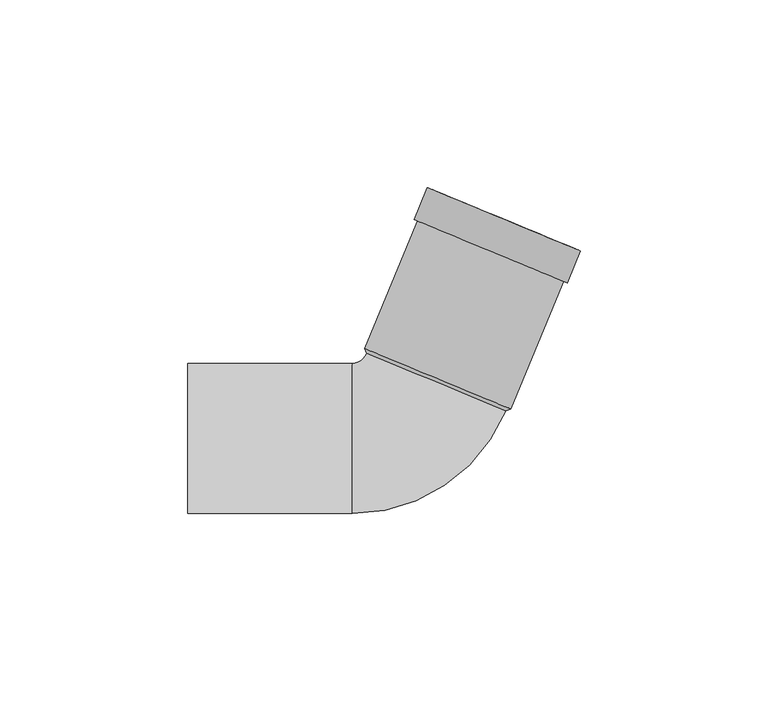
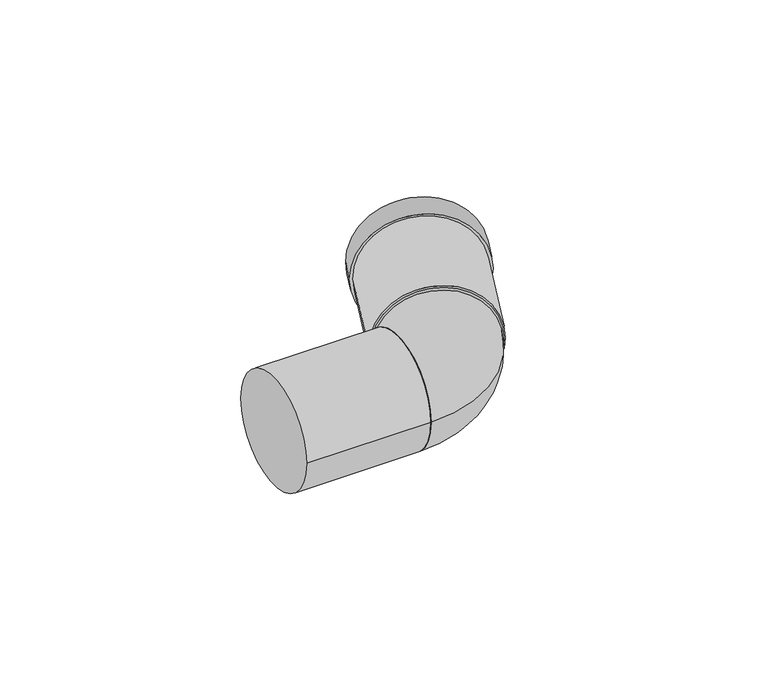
"""IFC4 building model written with IfcOpenShell, lengths in millimetres: pipe fitting geometry, Superdrain HT bend : Superdrain HT Bend."""

from ifc_helpers import new_model, si_unit, point, frame, origin, origin_2d, place, context, project, spatial, polyline, circle_curve, ellipse_curve, trimmed, segment, composite_curve, outline, extrude, source, transform, mapped, element, save
from ifc_brep_helpers import plane_surface, revolved_surface, advanced_brep


def pipe_fitting_aafaf56d(model_context):
    return source(origin(), model_context, "Body", "SolidModel", [
        advanced_brep(
        [(24.6770623, 7.3131798, 0.0), (-12.278119, 22.6205171, 0.0), (-16.2, -20.0, 0.0), (-16.2, 20.0, 0.0)],
        [
            (0, 1, circle_curve(frame((6.1994716, 14.9668484, 0.0), z_axis=(0.38268343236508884, 0.9238795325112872, 0.0), x_axis=(-0.9238795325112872, 0.38268343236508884, 0.0)), 20.0)),
            (1, 0, circle_curve(frame((6.1994716, 14.9668484, 0.0), z_axis=(0.38268343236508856, 0.9238795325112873, 0.0), x_axis=(-0.9238795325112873, 0.38268343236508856, 0.0)), 20.0)),
            (2, 3, circle_curve(frame((-16.2, 0.0, 0.0), z_axis=(-1.0, 0.0, 0.0), x_axis=(0.0, 1.0, 0.0)), 20.0)),
            (3, 2, circle_curve(frame((-16.2, 0.0, 0.0), z_axis=(-1.0, 0.0, 0.0), x_axis=(0.0, 1.0, 0.0)), 20.0)),
            (3, 1, circle_curve(frame((-16.2, 24.2450134, 0.0), z_axis=(0.0, 0.0, 1.0), x_axis=(1.0, 0.0, 0.0)), 4.2450134)),
            (0, 2, circle_curve(frame((-16.2, 24.2450134, 0.0), z_axis=(0.0, 0.0, -1.0), x_axis=(1.0, 0.0, 0.0)), 44.2450134)),
        ],
        [
            plane_surface(frame((6.1994716, 14.9668484, 0.0), z_axis=(0.3826834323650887, 0.9238795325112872, 0.0), x_axis=(0.0, 0.0, -1.0))),
            plane_surface(frame((-16.2, 0.0, 0.0), z_axis=(-1.0, 0.0, 0.0), x_axis=(0.0, 0.0, -1.0))),
            revolved_surface(trimmed(ellipse_curve(frame((8.0450134, 24.2450134, 0.0), z_axis=(0.0, -1.0, 0.0), x_axis=(-1.0, 0.0, 0.0)), 20.0, 20.0), [point((-11.9549866, 24.2450134, 0.0))], [point((28.0450134, 24.2450134, 0.0))], True, "CARTESIAN"), (-16.2, 24.2450134, 0.0), (0.0, 0.0, 1.0)),
            revolved_surface(trimmed(ellipse_curve(frame((8.0450134, 24.2450134, 0.0), z_axis=(0.0, -1.0, 0.0), x_axis=(-1.0, 0.0, 0.0)), 20.0, 20.0), [point((28.0450134, 24.2450134, 0.0))], [point((-11.9549866, 24.2450134, 0.0))], True, "CARTESIAN"), (-16.2, 24.2450134, 0.0), (0.0, 0.0, 1.0)),
        ],
        [
            (0, [[1, 2]]),
            (1, [[3, 4]]),
            (2, [[-4, 5, -1, 6]]),
            (3, [[-3, -6, -2, -5]]),
        ],
    ),
        extrude(outline(composite_curve([segment(trimmed(circle_curve(origin_2d(), 21.0), [point((0.0, 21.0))], [point((0.0, -20.9999999))], False, "CARTESIAN"), True, "CONTINUOUS"), segment(trimmed(circle_curve(origin_2d(), 21.0), [point((0.0, -20.9999999))], [point((0.0, 21.0))], False, "CARTESIAN"), True, "CONTINUOUS")], self_intersect=False), holes=[composite_curve([segment(trimmed(circle_curve(origin_2d(), 20.0), [point((0.0, 20.0000001))], [point((0.0, -19.9999999))], True, "CARTESIAN"), True, "CONTINUOUS"), segment(trimmed(circle_curve(origin_2d(), 20.0), [point((0.0, -19.9999999))], [point((0.0, 20.0000001))], True, "CARTESIAN"), True, "CONTINUOUS")], self_intersect=False)]), frame((6.582155, 15.890728, 0.0), z_axis=(0.3826834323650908, 0.9238795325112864, 0.0), x_axis=(0.0, 0.0, 1.0)), (0.0, 0.0, 1.0), 46.0),
        extrude(outline(composite_curve([segment(trimmed(circle_curve(origin_2d(), 22.05), [point((0.0, -22.0499999))], [point((0.0, 22.05))], False, "CARTESIAN"), True, "CONTINUOUS"), segment(trimmed(circle_curve(origin_2d(), 22.05), [point((0.0, 22.05))], [point((0.0, -22.0499999))], False, "CARTESIAN"), True, "CONTINUOUS")], self_intersect=False), holes=[composite_curve([segment(trimmed(circle_curve(origin_2d(), 20.0), [point((0.0, -19.9999999))], [point((0.0, 20.0000001))], True, "CARTESIAN"), True, "CONTINUOUS"), segment(trimmed(circle_curve(origin_2d(), 20.0), [point((0.0, 20.0000001))], [point((0.0, -19.9999999))], True, "CARTESIAN"), True, "CONTINUOUS")], self_intersect=False)]), frame((20.6649053, 49.8894948, 0.0), z_axis=(0.3826834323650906, 0.9238795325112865, 0.0), x_axis=(0.0, 0.0, 1.0)), (0.0, 0.0, 1.0), 9.2),
        advanced_brep(
        [(25.9836252, 7.8543759, 0.0), (-12.8193151, 23.92708, 0.0), (24.6770623, 7.3131798, 0.0), (-12.278119, 22.6205171, 0.0)],
        [
            (0, 1, circle_curve(frame((6.582155, 15.890728, 0.0), z_axis=(0.3826834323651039, 0.923879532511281, 0.0), x_axis=(0.9238795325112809, -0.382683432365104, 0.0)), 21.0)),
            (1, 0, circle_curve(frame((6.582155, 15.890728, 0.0), z_axis=(0.3826834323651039, 0.923879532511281, 0.0), x_axis=(-0.923879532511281, 0.3826834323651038, 0.0)), 21.0)),
            (2, 3, circle_curve(frame((6.1994716, 14.9668484, 0.0), z_axis=(-0.3826834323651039, -0.923879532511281, 0.0), x_axis=(-0.923879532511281, 0.3826834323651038, 0.0)), 20.0)),
            (3, 2, circle_curve(frame((6.1994716, 14.9668484, 0.0), z_axis=(-0.3826834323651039, -0.923879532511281, 0.0), x_axis=(0.9238795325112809, -0.382683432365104, 0.0)), 20.0)),
            (3, 1),
            (0, 2),
        ],
        [
            plane_surface(frame((6.582155, 15.890728, 0.0), z_axis=(0.3826834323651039, 0.923879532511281, 0.0), x_axis=(0.0, 0.0, -1.0))),
            plane_surface(frame((6.1994716, 14.9668484, 0.0), z_axis=(-0.3826834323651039, -0.923879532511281, 0.0), x_axis=(0.0, 0.0, -1.0))),
            revolved_surface(polyline([(-12.278118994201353, 22.620517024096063, 0.0), (-12.819315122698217, 23.927080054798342, 0.0)]), (-1.454197, -3.5107422, 0.0), (0.3826834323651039, 0.923879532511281, 0.0)),
            revolved_surface(polyline([(24.677062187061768, 7.313179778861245, 0.0), (25.983625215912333, 7.8543759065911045, 0.0)]), (-1.454197, -3.5107422, 0.0), (0.3826834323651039, 0.923879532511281, 0.0)),
        ],
        [
            (0, [[1, 2]]),
            (1, [[3, 4]]),
            (2, [[-4, 5, -1, 6]]),
            (3, [[-3, -6, -2, -5]]),
        ],
    ),
        extrude(outline(composite_curve([segment(trimmed(circle_curve(origin_2d(), 20.0), [point((-20.0, 0.0))], [point((20.0, 0.0))], False, "CARTESIAN"), True, "CONTINUOUS"), segment(trimmed(circle_curve(origin_2d(), 20.0), [point((20.0, 0.0))], [point((-20.0, 0.0))], False, "CARTESIAN"), True, "CONTINUOUS")], self_intersect=False)), frame((-60.0, 0.0, 0.0), z_axis=(1.0, 0.0, 0.0), x_axis=(0.0, 1.0, 0.0)), (0.0, 0.0, 1.0), 43.8),
    ])


if __name__ == "__main__":
    model = new_model("IFC4")
    model_context = context("Model", 3, world=origin())
    ifc_project = project(units=[si_unit("LENGTHUNIT", "METRE", prefix="MILLI")], contexts=[model_context])
    site = spatial("IfcSite", under=ifc_project)
    building = spatial("IfcBuilding", under=site)
    placement = place(None, origin())
    pipe_fitting_shape = pipe_fitting_aafaf56d(model_context)
    element("IfcPipeFitting", 1, ObjectType="Superdrain HT bend : Superdrain HT Bend", at=placement, inside=building, context=model_context, shape_type="MappedRepresentation", body=[
        mapped(pipe_fitting_shape, transform((0.0, 0.0, 0.0), x_axis=(1.0, 0.0, 0.0), y_axis=(0.0, 1.0, 0.0), z_axis=(0.0, 0.0, 1.0))),
    ])
    save(model, "model.ifc")
